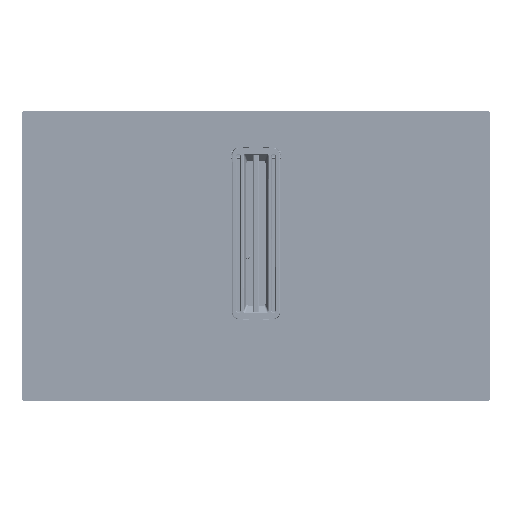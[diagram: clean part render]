
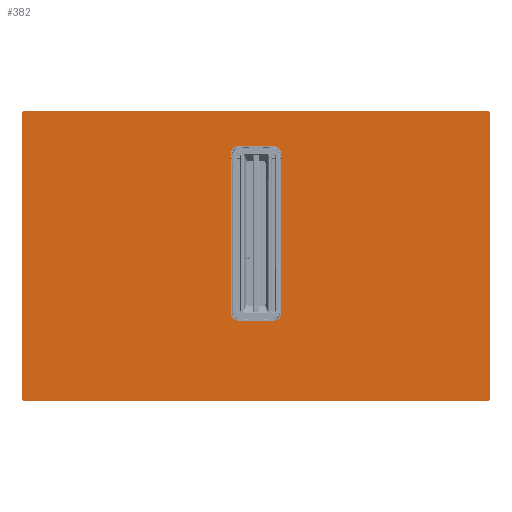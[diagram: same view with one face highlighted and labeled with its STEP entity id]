
A CAD part, top view. The second image highlights one B-rep face of the part: STEP entity #382.
In plain terms, the highlighted planar face has unit normal (0, 0, 1).
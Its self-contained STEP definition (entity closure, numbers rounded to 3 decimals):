
#62=CARTESIAN_POINT('Vertex',(-410.,257.5,4.)) ;
#76=CARTESIAN_POINT('Vertex',(-415.,252.5,4.)) ;
#79=CARTESIAN_POINT('Axis2P3D Location',(-410.,252.5,4.)) ;
#102=CARTESIAN_POINT('Vertex',(410.,257.5,4.)) ;
#110=CARTESIAN_POINT('Line Origine',(0.,257.5,4.)) ;
#253=CARTESIAN_POINT('Vertex',(-415.,-252.5,4.)) ;
#256=CARTESIAN_POINT('Line Origine',(-415.,0.,4.)) ;
#268=CARTESIAN_POINT('Axis2P3D Location',(0.,0.,4.)) ;
#273=CARTESIAN_POINT('Axis2P3D Location',(-410.,-252.5,4.)) ;
#277=CARTESIAN_POINT('Vertex',(-410.,-257.5,4.)) ;
#280=CARTESIAN_POINT('Line Origine',(0.,-257.5,4.)) ;
#284=CARTESIAN_POINT('Vertex',(410.,-257.5,4.)) ;
#287=CARTESIAN_POINT('Axis2P3D Location',(410.,-252.5,4.)) ;
#291=CARTESIAN_POINT('Vertex',(415.,-252.5,4.)) ;
#294=CARTESIAN_POINT('Line Origine',(415.,0.,4.)) ;
#298=CARTESIAN_POINT('Vertex',(415.,252.5,4.)) ;
#301=CARTESIAN_POINT('Axis2P3D Location',(410.,252.5,4.)) ;
#316=CARTESIAN_POINT('Line Origine',(0.,195.,4.)) ;
#320=CARTESIAN_POINT('Vertex',(30.,195.,4.)) ;
#322=CARTESIAN_POINT('Vertex',(-30.,195.,4.)) ;
#325=CARTESIAN_POINT('Axis2P3D Location',(30.,180.,4.)) ;
#329=CARTESIAN_POINT('Vertex',(45.,180.,4.)) ;
#332=CARTESIAN_POINT('Line Origine',(45.,40.,4.)) ;
#336=CARTESIAN_POINT('Vertex',(45.,-100.,4.)) ;
#339=CARTESIAN_POINT('Axis2P3D Location',(30.,-100.,4.)) ;
#343=CARTESIAN_POINT('Vertex',(30.,-115.,4.)) ;
#346=CARTESIAN_POINT('Line Origine',(0.,-115.,4.)) ;
#350=CARTESIAN_POINT('Vertex',(-30.,-115.,4.)) ;
#353=CARTESIAN_POINT('Axis2P3D Location',(-30.,-100.,4.)) ;
#357=CARTESIAN_POINT('Vertex',(-45.,-100.,4.)) ;
#360=CARTESIAN_POINT('Line Origine',(-45.,40.,4.)) ;
#364=CARTESIAN_POINT('Vertex',(-45.,180.,4.)) ;
#367=CARTESIAN_POINT('Axis2P3D Location',(-30.,180.,4.)) ;
#80=DIRECTION('Axis2P3D Direction',(0.,0.,1.)) ;
#111=DIRECTION('Vector Direction',(1.,0.,0.)) ;
#257=DIRECTION('Vector Direction',(0.,-1.,0.)) ;
#269=DIRECTION('Axis2P3D Direction',(0.,0.,1.)) ;
#270=DIRECTION('Axis2P3D XDirection',(1.,0.,0.)) ;
#274=DIRECTION('Axis2P3D Direction',(0.,0.,1.)) ;
#281=DIRECTION('Vector Direction',(-1.,0.,0.)) ;
#288=DIRECTION('Axis2P3D Direction',(0.,0.,1.)) ;
#295=DIRECTION('Vector Direction',(0.,1.,0.)) ;
#302=DIRECTION('Axis2P3D Direction',(0.,0.,1.)) ;
#317=DIRECTION('Vector Direction',(1.,0.,0.)) ;
#326=DIRECTION('Axis2P3D Direction',(0.,0.,1.)) ;
#333=DIRECTION('Vector Direction',(0.,1.,0.)) ;
#340=DIRECTION('Axis2P3D Direction',(0.,0.,1.)) ;
#347=DIRECTION('Vector Direction',(-1.,0.,0.)) ;
#354=DIRECTION('Axis2P3D Direction',(0.,0.,1.)) ;
#361=DIRECTION('Vector Direction',(0.,-1.,0.)) ;
#368=DIRECTION('Axis2P3D Direction',(0.,0.,1.)) ;
#81=AXIS2_PLACEMENT_3D('Circle Axis2P3D',#79,#80,$) ;
#271=AXIS2_PLACEMENT_3D('Plane Axis2P3D',#268,#269,#270) ;
#275=AXIS2_PLACEMENT_3D('Circle Axis2P3D',#273,#274,$) ;
#289=AXIS2_PLACEMENT_3D('Circle Axis2P3D',#287,#288,$) ;
#303=AXIS2_PLACEMENT_3D('Circle Axis2P3D',#301,#302,$) ;
#327=AXIS2_PLACEMENT_3D('Circle Axis2P3D',#325,#326,$) ;
#341=AXIS2_PLACEMENT_3D('Circle Axis2P3D',#339,#340,$) ;
#355=AXIS2_PLACEMENT_3D('Circle Axis2P3D',#353,#354,$) ;
#369=AXIS2_PLACEMENT_3D('Circle Axis2P3D',#367,#368,$) ;
#307=ORIENTED_EDGE('',*,*,#83,.T.) ;
#308=ORIENTED_EDGE('',*,*,#260,.T.) ;
#309=ORIENTED_EDGE('',*,*,#279,.T.) ;
#310=ORIENTED_EDGE('',*,*,#286,.T.) ;
#311=ORIENTED_EDGE('',*,*,#293,.T.) ;
#312=ORIENTED_EDGE('',*,*,#300,.T.) ;
#313=ORIENTED_EDGE('',*,*,#305,.T.) ;
#314=ORIENTED_EDGE('',*,*,#114,.T.) ;
#373=ORIENTED_EDGE('',*,*,#324,.F.) ;
#374=ORIENTED_EDGE('',*,*,#331,.F.) ;
#375=ORIENTED_EDGE('',*,*,#338,.F.) ;
#376=ORIENTED_EDGE('',*,*,#345,.F.) ;
#377=ORIENTED_EDGE('',*,*,#352,.F.) ;
#378=ORIENTED_EDGE('',*,*,#359,.F.) ;
#379=ORIENTED_EDGE('',*,*,#366,.F.) ;
#380=ORIENTED_EDGE('',*,*,#371,.F.) ;
#381=FACE_BOUND('',#372,.T.) ;
#112=VECTOR('Line Direction',#111,1.) ;
#258=VECTOR('Line Direction',#257,1.) ;
#282=VECTOR('Line Direction',#281,1.) ;
#296=VECTOR('Line Direction',#295,1.) ;
#318=VECTOR('Line Direction',#317,1.) ;
#334=VECTOR('Line Direction',#333,1.) ;
#348=VECTOR('Line Direction',#347,1.) ;
#362=VECTOR('Line Direction',#361,1.) ;
#382=ADVANCED_FACE('M0516632.1\\M0421545.1\\M0421545 glass ceramic plate',(#315,#381),#272,.T.) ;
#82=CIRCLE('generated circle',#81,5.) ;
#276=CIRCLE('generated circle',#275,5.) ;
#290=CIRCLE('generated circle',#289,5.) ;
#304=CIRCLE('generated circle',#303,5.) ;
#328=CIRCLE('generated circle',#327,15.) ;
#342=CIRCLE('generated circle',#341,15.) ;
#356=CIRCLE('generated circle',#355,15.) ;
#370=CIRCLE('generated circle',#369,15.) ;
#83=EDGE_CURVE('',#63,#77,#82,.T.) ;
#114=EDGE_CURVE('',#103,#63,#113,.F.) ;
#260=EDGE_CURVE('',#77,#254,#259,.T.) ;
#279=EDGE_CURVE('',#254,#278,#276,.T.) ;
#286=EDGE_CURVE('',#278,#285,#283,.F.) ;
#293=EDGE_CURVE('',#285,#292,#290,.T.) ;
#300=EDGE_CURVE('',#292,#299,#297,.T.) ;
#305=EDGE_CURVE('',#299,#103,#304,.T.) ;
#324=EDGE_CURVE('',#321,#323,#319,.F.) ;
#331=EDGE_CURVE('',#330,#321,#328,.T.) ;
#338=EDGE_CURVE('',#337,#330,#335,.T.) ;
#345=EDGE_CURVE('',#344,#337,#342,.T.) ;
#352=EDGE_CURVE('',#351,#344,#349,.F.) ;
#359=EDGE_CURVE('',#358,#351,#356,.T.) ;
#366=EDGE_CURVE('',#365,#358,#363,.T.) ;
#371=EDGE_CURVE('',#323,#365,#370,.T.) ;
#306=EDGE_LOOP('',(#307,#308,#309,#310,#311,#312,#313,#314)) ;
#372=EDGE_LOOP('',(#373,#374,#375,#376,#377,#378,#379,#380)) ;
#315=FACE_OUTER_BOUND('',#306,.T.) ;
#113=LINE('Line',#110,#112) ;
#259=LINE('Line',#256,#258) ;
#283=LINE('Line',#280,#282) ;
#297=LINE('Line',#294,#296) ;
#319=LINE('Line',#316,#318) ;
#335=LINE('Line',#332,#334) ;
#349=LINE('Line',#346,#348) ;
#363=LINE('Line',#360,#362) ;
#272=PLANE('',#271) ;
#63=VERTEX_POINT('',#62) ;
#77=VERTEX_POINT('',#76) ;
#103=VERTEX_POINT('',#102) ;
#254=VERTEX_POINT('',#253) ;
#278=VERTEX_POINT('',#277) ;
#285=VERTEX_POINT('',#284) ;
#292=VERTEX_POINT('',#291) ;
#299=VERTEX_POINT('',#298) ;
#321=VERTEX_POINT('',#320) ;
#323=VERTEX_POINT('',#322) ;
#330=VERTEX_POINT('',#329) ;
#337=VERTEX_POINT('',#336) ;
#344=VERTEX_POINT('',#343) ;
#351=VERTEX_POINT('',#350) ;
#358=VERTEX_POINT('',#357) ;
#365=VERTEX_POINT('',#364) ;
